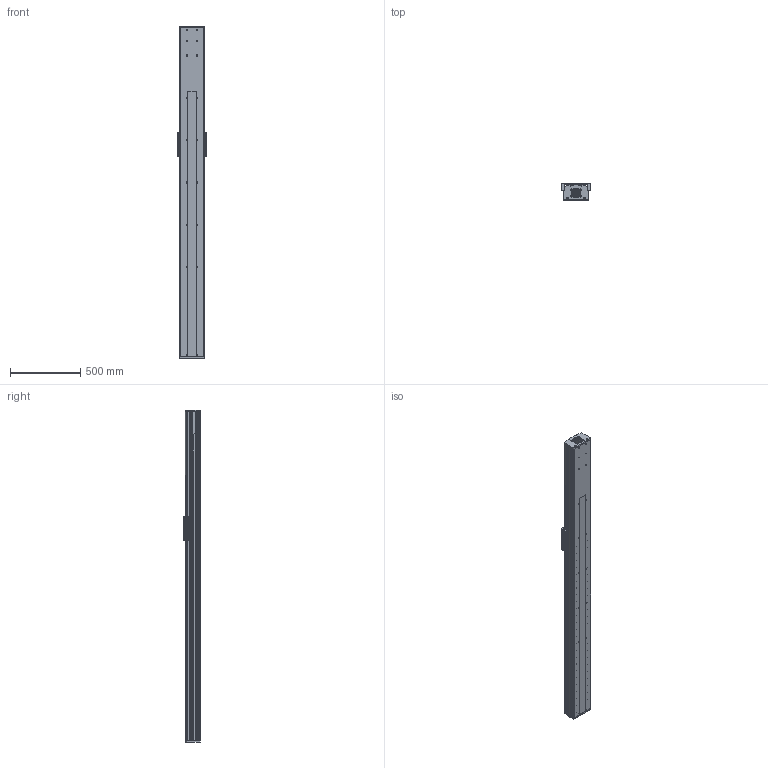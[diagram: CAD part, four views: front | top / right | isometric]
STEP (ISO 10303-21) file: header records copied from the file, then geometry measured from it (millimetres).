
FILE_DESCRIPTION (( 'STEP AP203' ), '1' );
FILE_NAME ('CF175-2-P2000.STEP', '2016-02-23T07:50:05', ( 'Sky123.Org' ), ( 'Sky123.Org' ), 'SwSTEP 2.0', 'SolidWorks 2015', '' );
FILE_SCHEMA (( 'CONFIG_CONTROL_DESIGN' ));
Length unit declared in the file: millimetre
Products named in the file (13): Y1-HGR20-1500絳寢; CF-HGH20CA賑輸; CF175-2賑雄啣; SFU2505-4; 175-2梓袧嘐隅釱; X1-SFS2525-1185; 175-2侜督80萇儂釱; 175-2耜啣; CF175-2-P2000; 175-2盓傅釱; CF175-2蹟譫釱; Y1-CF175-2-P1200-1547裔啣; Y1-CF175-2-P1200-1547臏倰第
Assembly tree (16 placements, depth 2):
  CF175-2-P2000
    CF-HGH20CA賑輸  x4
    SFU2505-4
    X1-SFS2525-1185
    175-2耜啣
    175-2盓傅釱
    CF175-2蹟譫釱
    Y1-CF175-2-P1200-1547裔啣
    Y1-CF175-2-P1200-1547臏倰第
    Y1-HGR20-1500絳寢  x2
    CF175-2賑雄啣
    175-2梓袧嘐隅釱
    175-2侜督80萇儂釱
Bounding box: 200 x 116.8 x 2355 mm (x, y, z)
Volume: 15631340.8 mm3; surface area: 4137841.2 mm2
Topology: 20 solids, 20 shells, 1575 faces, 4137 edges, 2740 vertices
Faces by surface type: cylinder 857, plane 694, cone 20, bspline 4
Entity records: 46222 total; most frequent: CARTESIAN_POINT 11888, DIRECTION 7184, ORIENTED_EDGE 6612, EDGE_CURVE 3306, AXIS2_PLACEMENT_3D 2725, VERTEX_POINT 2188, VECTOR 1734, LINE 1734
